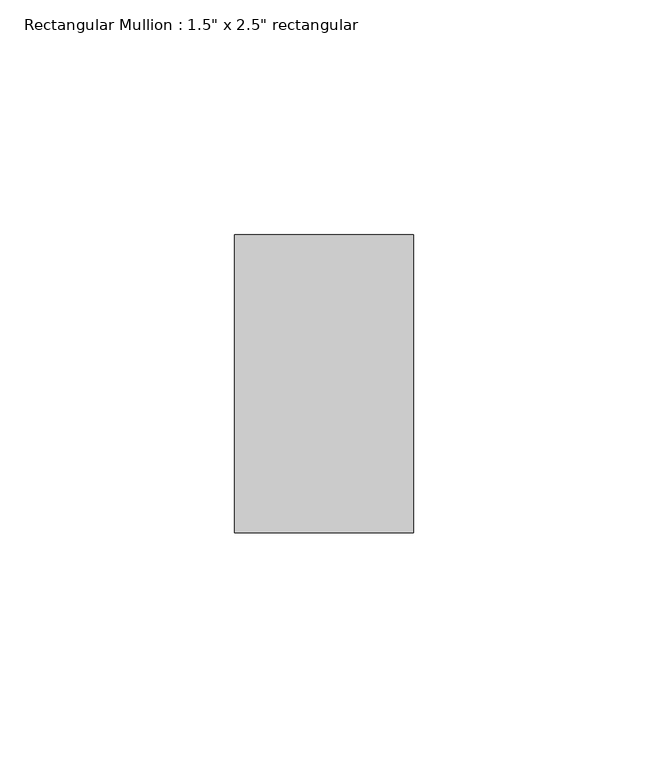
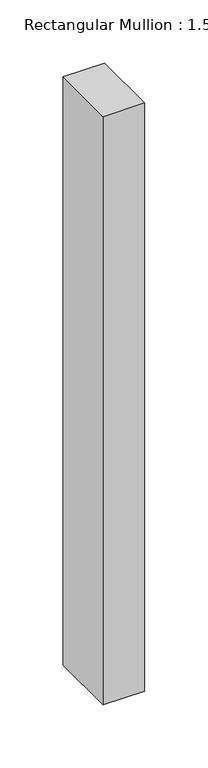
"""IFC4 building model written with IfcOpenShell, lengths in millimetres: member geometry."""

from ifc_helpers import new_model, si_unit, frame, origin, place, context, project, spatial, polyline, outline, extrude, source, transform, mapped, element, save


def member_0df8127f(model_context):
    return source(origin(), model_context, "Body", "SweptSolid", [
        extrude(outline(polyline([(19.05, 31.75), (19.05, -31.75), (-19.05, -31.75), (-19.05, 31.75), (19.05, 31.75)])), frame((0.0, 0.0, -568.5009366), z_axis=(0.0, 0.0, 1.0), x_axis=(1.0, 0.0, 0.0)), (0.0, 0.0, 1.0), 568.5009366),
    ])


if __name__ == "__main__":
    model = new_model("IFC4")
    model_context = context("Model", 3, world=origin())
    ifc_project = project(units=[si_unit("LENGTHUNIT", "METRE", prefix="MILLI")], contexts=[model_context])
    site = spatial("IfcSite", under=ifc_project)
    building = spatial("IfcBuilding", under=site)
    placement = place(None, origin())
    member_shape = member_0df8127f(model_context)
    element("IfcMember", 1, ObjectType="Rectangular Mullion : 1.5\" x 2.5\" rectangular", at=placement, inside=building, context=model_context, shape_type="MappedRepresentation", body=[
        mapped(member_shape, transform((0.0, 0.0, 0.0), x_axis=(1.0, 0.0, 0.0), y_axis=(0.0, 1.0, 0.0), z_axis=(0.0, 0.0, 1.0))),
    ])
    save(model, "model.ifc")
